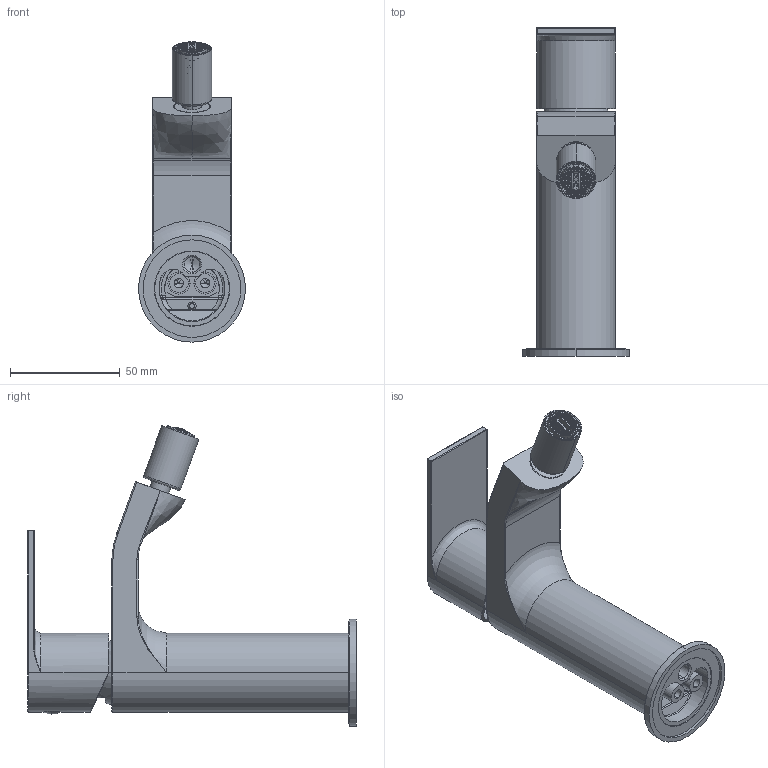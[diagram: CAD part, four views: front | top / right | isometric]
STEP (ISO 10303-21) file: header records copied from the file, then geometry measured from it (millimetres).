
FILE_DESCRIPTION((''),'2;1');
FILE_NAME('83080_SW0001','2026-01-30T13:43:36',('carloff'),(''),'CREO PARAMETRIC BY PTC INC, 2022014','CREO PARAMETRIC BY PTC INC, 2022014','');
FILE_SCHEMA(('CONFIG_CONTROL_DESIGN'));
Length unit declared in the file: millimetre
Products named in the file (1): 83080_SW0001
Bounding box: 48.8 x 149.8 x 136.91 mm (x, y, z)
Volume: 108326.7 mm3; surface area: 74435.8 mm2
Topology: 3 solids, 3 shells, 3306 faces, 9474 edges, 6210 vertices
Faces by surface type: plane 1952, cylinder 502, torus 495, bspline 203, cone 119, sphere 32, extrusion 3
Entity records: 148718 total; most frequent: CARTESIAN_POINT 67964, ORIENTED_EDGE 18894, DIRECTION 14015, EDGE_CURVE 9447, VERTEX_POINT 6210, AXIS2_PLACEMENT_3D 5243, B_SPLINE_CURVE_WITH_KNOTS 3781, EDGE_LOOP 3699
